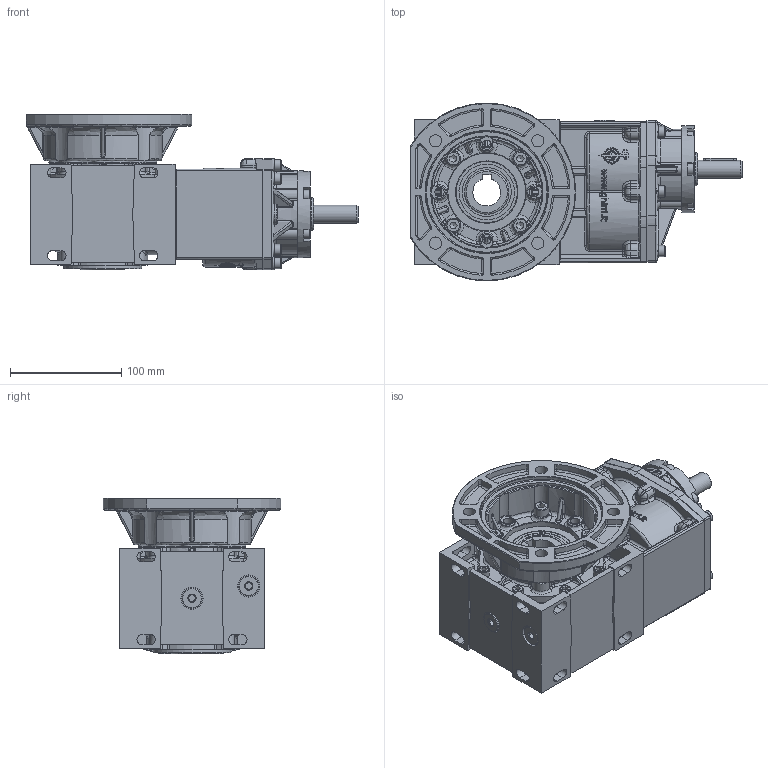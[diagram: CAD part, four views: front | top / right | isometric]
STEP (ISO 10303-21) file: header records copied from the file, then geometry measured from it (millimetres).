
FILE_DESCRIPTION((''),'2;1');
FILE_NAME('S:\Ghirri\3D\MO_RO10\Assiemi\RO10_2sFU.stp','2006-02-01T15:33:01',('Stefano'),(''),'Autodesk Inventor 10','Autodesk Inventor 10','');
FILE_SCHEMA(('AUTOMOTIVE_DESIGN { 1 0 10303 214 1 1 1 1 }'));
Length unit declared in the file: millimetre
Products named in the file (17): RO10_2sFU; Primario_MO10_2S; 3901001-A0; 3901002-A0; 3901003-A0; 3901009-A0; Paraolio-40-56-7; Guarnizione 1_4 GAS; Tappo 1_4 GAS; UNI 5931  M 6 x  20; UNI 8839 A 6; Coperchio_Forato_2S_3901022-B0; ALBERO PIGNONE_RO10_2S; 5 x 5 x 30; FU_MV50; UNI 5931  M 8 x  16
Assembly tree (52 placements, depth 3):
  RO10_2sFU
    Primario_MO10_2S
      3901001-A0
      3901002-A0
      3901003-A0
      3901009-A0
      Paraolio-40-56-7  x2
      Guarnizione 1_4 GAS  x5
      Tappo 1_4 GAS  x5
      UNI 5931  M 6 x  20  x14
      UNI 8839 A 6  x6
    Coperchio_Forato_2S_3901022-B0
    UNI 5931  M 6 x  20  x6
    ALBERO PIGNONE_RO10_2S
    5 x 5 x 30
    FU_MV50
      FU_MV50
      UNI 5931  M 8 x  16  x4
Bounding box: 298.5 x 160 x 140 mm (x, y, z)
Volume: 2304215.6 mm3; surface area: 392901.7 mm2
Topology: 50 solids, 51 shells, 3199 faces, 7964 edges, 4886 vertices
Faces by surface type: plane 1093, cylinder 1025, bspline 881, cone 126, torus 74
Full cylindrical faces by diameter (mm): 5 x2, 6 x20, 6.5 x14, 8 x4, 8.5 x8, 10 x20, 11 x4, 11.445 x1, 13 x14, 16 x1, 18 x5, 19 x5, 20 x1, 30 x1, 31 x2, 40 x4, 44 x2, 46 x2, 48 x1, 50 x2, 52 x2, 55 x2, 56 x4, 70 x3, 78 x1, 96.4 x1, 101 x1, 102 x3, 110 x1
Entity records: 148096 total; most frequent: CARTESIAN_POINT 85779, ORIENTED_EDGE 13314, DIRECTION 12298, EDGE_CURVE 6657, AXIS2_PLACEMENT_3D 4872, VERTEX_POINT 4191, EDGE_LOOP 3094, FACE_OUTER_BOUND 2743
